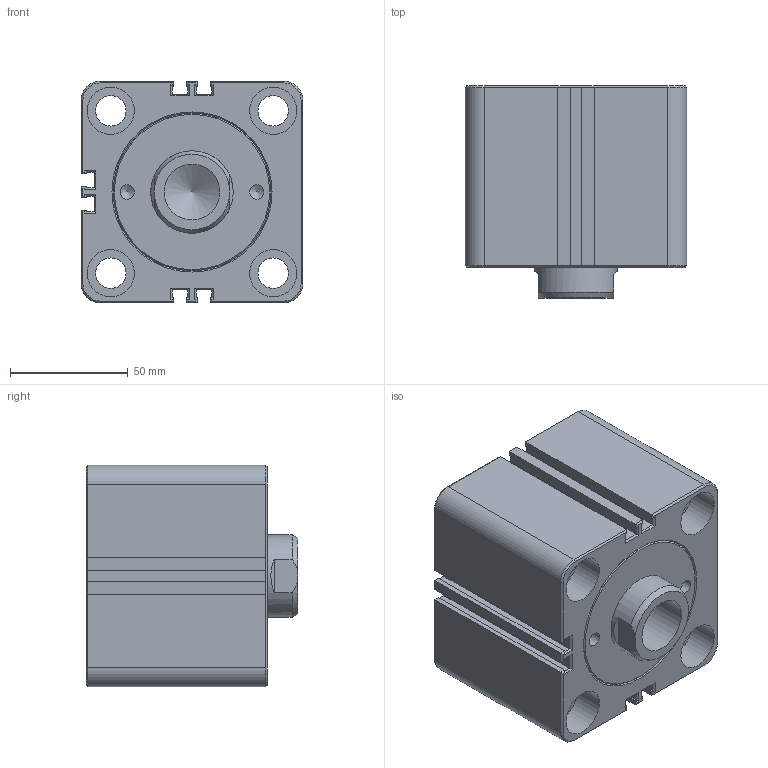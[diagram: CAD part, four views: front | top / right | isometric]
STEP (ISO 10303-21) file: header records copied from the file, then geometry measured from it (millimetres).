
FILE_DESCRIPTION(/* description */ ('Unknown'),/* implementation_level */ '2;1');
FILE_NAME(/* name */ 'HTM70-SD63X10N',/* time_stamp */ '2022-08-31T02:49:47+08:00',/* author */ ('Unknown'),/* organization */ ('Unknown'),/* preprocessor_version */ 'ST-DEVELOPER v16.7',/* originating_system */ 'DEX',/* authorisation */ $);
FILE_SCHEMA (('AUTOMOTIVE_DESIGN {1 0 10303 214 3 1 1}'));
Length unit declared in the file: millimetre
Products named in the file (1): HTM70-SD63X10N
Bounding box: 94 x 90 x 94 mm (x, y, z)
Volume: 590316.8 mm3; surface area: 70498.3 mm2
Topology: 1 solids, 1 shells, 235 faces, 540 edges, 321 vertices
Faces by surface type: plane 176, cone 24, cylinder 23, bspline 12
Full cylindrical faces by diameter (mm): 6 x1, 6.1 x2, 13 x4, 15.806 x2, 20 x8, 23.752 x1, 35 x1
Entity records: 8001 total; most frequent: CARTESIAN_POINT 1285, ORIENTED_EDGE 1002, DIRECTION 992, EDGE_CURVE 501, LINE 390, VECTOR 390, VERTEX_POINT 312, AXIS2_PLACEMENT_3D 301
